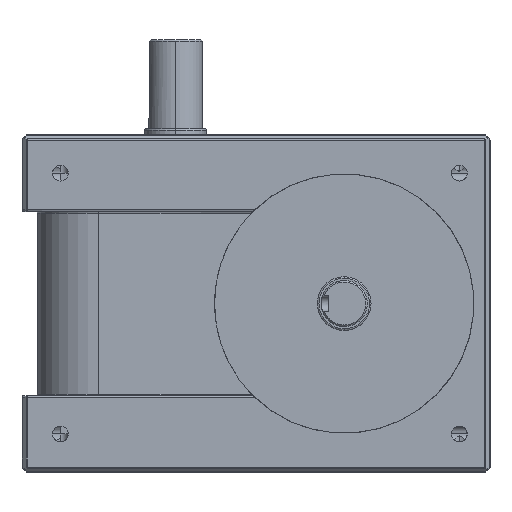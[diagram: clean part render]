
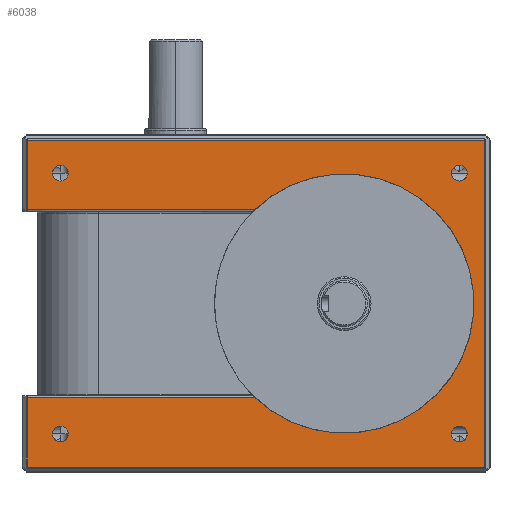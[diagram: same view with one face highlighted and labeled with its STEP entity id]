
A CAD part, left-side view. The second image highlights one B-rep face of the part: STEP entity #6038.
In plain terms, the highlighted planar face has unit normal (-1, 0, 0).
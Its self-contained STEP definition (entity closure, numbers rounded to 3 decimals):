
#1359=CARTESIAN_POINT('',(-100.,127.5,-195.));
#1360=DIRECTION('',(-1.,0.,0.));
#1361=DIRECTION('',(0.,0.,1.));
#1362=AXIS2_PLACEMENT_3D('',#1359,#1360,#1361);
#1364=CARTESIAN_POINT('',(-100.,127.5,-195.));
#1365=DIRECTION('',(-1.,0.,0.));
#1366=DIRECTION('',(0.,0.,-1.));
#1367=AXIS2_PLACEMENT_3D('',#1364,#1365,#1366);
#1369=CARTESIAN_POINT('',(-100.,127.5,-25.));
#1370=DIRECTION('',(-1.,0.,0.));
#1371=DIRECTION('',(0.,0.,1.));
#1372=AXIS2_PLACEMENT_3D('',#1369,#1370,#1371);
#1374=CARTESIAN_POINT('',(-100.,127.5,-25.));
#1375=DIRECTION('',(-1.,0.,0.));
#1376=DIRECTION('',(0.,0.,-1.));
#1377=AXIS2_PLACEMENT_3D('',#1374,#1375,#1376);
#1379=CARTESIAN_POINT('',(-100.,-132.5,-25.));
#1380=DIRECTION('',(-1.,0.,0.));
#1381=DIRECTION('',(0.,0.,1.));
#1382=AXIS2_PLACEMENT_3D('',#1379,#1380,#1381);
#1384=CARTESIAN_POINT('',(-100.,-132.5,-25.));
#1385=DIRECTION('',(-1.,0.,0.));
#1386=DIRECTION('',(0.,0.,-1.));
#1387=AXIS2_PLACEMENT_3D('',#1384,#1385,#1386);
#1389=CARTESIAN_POINT('',(-100.,-132.5,-195.));
#1390=DIRECTION('',(-1.,0.,0.));
#1391=DIRECTION('',(0.,0.,1.));
#1392=AXIS2_PLACEMENT_3D('',#1389,#1390,#1391);
#1394=CARTESIAN_POINT('',(-100.,-132.5,-195.));
#1395=DIRECTION('',(-1.,0.,0.));
#1396=DIRECTION('',(0.,0.,-1.));
#1397=AXIS2_PLACEMENT_3D('',#1394,#1395,#1396);
#1399=DIRECTION('',(0.,0.,-1.));
#1400=VECTOR('',#1399,45.586);
#1401=CARTESIAN_POINT('',(-100.,149.086,-171.));
#1402=LINE('',#1401,#1400);
#1403=DIRECTION('',(0.,1.,0.));
#1404=VECTOR('',#1403,148.111);
#1405=CARTESIAN_POINT('',(-100.,0.974,-171.));
#1406=LINE('',#1405,#1404);
#1407=DIRECTION('',(0.,-1.,0.));
#1408=VECTOR('',#1407,148.111);
#1409=CARTESIAN_POINT('',(-100.,149.086,-49.));
#1410=LINE('',#1409,#1408);
#1411=DIRECTION('',(0.,0.,-1.));
#1412=VECTOR('',#1411,45.586);
#1413=CARTESIAN_POINT('',(-100.,149.086,
-3.414));
#1414=LINE('',#1413,#1412);
#1415=DIRECTION('',(0.,1.,0.));
#1416=VECTOR('',#1415,298.172);
#1417=CARTESIAN_POINT('',(-100.,-149.086,
-3.414));
#1418=LINE('',#1417,#1416);
#1419=DIRECTION('',(0.,0.,1.));
#1420=VECTOR('',#1419,213.172);
#1421=CARTESIAN_POINT('',(-100.,-149.086,
-216.586));
#1422=LINE('',#1421,#1420);
#1423=DIRECTION('',(0.,-1.,0.));
#1424=VECTOR('',#1423,298.172);
#1425=CARTESIAN_POINT('',(-100.,149.086,
-216.586));
#1426=LINE('',#1425,#1424);
#1705=CARTESIAN_POINT('',(-100.,0.974,-171.));
#1712=CARTESIAN_POINT('',(-100.,0.974,-49.));
#1721=CARTESIAN_POINT('',(-100.,-57.5,-110.));
#1722=DIRECTION('',(1.,0.,0.));
#1723=DIRECTION('',(0.,0.692,0.722));
#1724=AXIS2_PLACEMENT_3D('',#1721,#1722,#1723);
#1734=CARTESIAN_POINT('',(-100.,149.086,-171.));
#3949=CARTESIAN_POINT('',(-100.,127.5,-189.85));
#3950=CARTESIAN_POINT('',(-100.,127.5,-200.15));
#3951=VERTEX_POINT('',#3949);
#3952=VERTEX_POINT('',#3950);
#3953=CARTESIAN_POINT('',(-100.,127.5,-19.85));
#3954=CARTESIAN_POINT('',(-100.,127.5,-30.15));
#3955=VERTEX_POINT('',#3953);
#3956=VERTEX_POINT('',#3954);
#3957=CARTESIAN_POINT('',(-100.,-132.5,-19.85));
#3958=CARTESIAN_POINT('',(-100.,-132.5,-30.15));
#3959=VERTEX_POINT('',#3957);
#3960=VERTEX_POINT('',#3958);
#3961=CARTESIAN_POINT('',(-100.,-132.5,-189.85));
#3962=CARTESIAN_POINT('',(-100.,-132.5,-200.15));
#3963=VERTEX_POINT('',#3961);
#3964=VERTEX_POINT('',#3962);
#4291=VERTEX_POINT('',#1705);
#4292=VERTEX_POINT('',#1712);
#4408=VERTEX_POINT('',#1734);
#4409=CARTESIAN_POINT('',(-100.,149.086,
-216.586));
#4410=VERTEX_POINT('',#4409);
#4414=CARTESIAN_POINT('',(-100.,-149.086,
-216.586));
#4415=VERTEX_POINT('',#4414);
#4419=CARTESIAN_POINT('',(-100.,-149.086,
-3.414));
#4420=VERTEX_POINT('',#4419);
#4424=CARTESIAN_POINT('',(-100.,149.086,
-3.414));
#4425=VERTEX_POINT('',#4424);
#4429=CARTESIAN_POINT('',(-100.,149.086,-49.));
#4430=VERTEX_POINT('',#4429);
#5997=CARTESIAN_POINT('',(-100.,152.5,0.));
#5998=DIRECTION('',(-1.,0.,0.));
#5999=DIRECTION('',(0.,-1.,0.));
#6000=AXIS2_PLACEMENT_3D('',#5997,#5998,#5999);
#6001=PLANE('',#6000);
#6003=ORIENTED_EDGE('',*,*,#6002,.F.);
#6005=ORIENTED_EDGE('',*,*,#6004,.F.);
#6007=ORIENTED_EDGE('',*,*,#6006,.F.);
#6009=ORIENTED_EDGE('',*,*,#6008,.F.);
#6011=ORIENTED_EDGE('',*,*,#6010,.F.);
#6013=ORIENTED_EDGE('',*,*,#6012,.F.);
#6015=ORIENTED_EDGE('',*,*,#6014,.F.);
#6017=ORIENTED_EDGE('',*,*,#6016,.F.);
#6018=EDGE_LOOP('',(#6003,#6005,#6007,#6009,#6011,#6013,#6015,#6017));
#6019=FACE_OUTER_BOUND('',#6018,.F.);
#6021=ORIENTED_EDGE('',*,*,#6020,.T.);
#6022=ORIENTED_EDGE('',*,*,#4949,.T.);
#6023=EDGE_LOOP('',(#6021,#6022));
#6024=FACE_BOUND('',#6023,.F.);
#6025=ORIENTED_EDGE('',*,*,#5551,.T.);
#6027=ORIENTED_EDGE('',*,*,#6026,.T.);
#6028=EDGE_LOOP('',(#6025,#6027));
#6029=FACE_BOUND('',#6028,.F.);
#6030=ORIENTED_EDGE('',*,*,#5927,.T.);
#6031=ORIENTED_EDGE('',*,*,#5988,.T.);
#6032=EDGE_LOOP('',(#6030,#6031));
#6033=FACE_BOUND('',#6032,.F.);
#6034=ORIENTED_EDGE('',*,*,#5037,.T.);
#6035=ORIENTED_EDGE('',*,*,#5015,.T.);
#6036=EDGE_LOOP('',(#6034,#6035));
#6037=FACE_BOUND('',#6036,.F.);
#1363=CIRCLE('',#1362,5.15);
#1368=CIRCLE('',#1367,5.15);
#1373=CIRCLE('',#1372,5.15);
#1378=CIRCLE('',#1377,5.15);
#1383=CIRCLE('',#1382,5.15);
#1388=CIRCLE('',#1387,5.15);
#1393=CIRCLE('',#1392,5.15);
#1398=CIRCLE('',#1397,5.15);
#1725=CIRCLE('',#1724,84.5);
#4949=EDGE_CURVE('',#3956,#3955,#1378,.T.);
#5015=EDGE_CURVE('',#3952,#3951,#1368,.T.);
#5037=EDGE_CURVE('',#3951,#3952,#1363,.T.);
#5551=EDGE_CURVE('',#3959,#3960,#1383,.T.);
#5927=EDGE_CURVE('',#3963,#3964,#1393,.T.);
#5988=EDGE_CURVE('',#3964,#3963,#1398,.T.);
#6002=EDGE_CURVE('',#4408,#4410,#1402,.T.);
#6004=EDGE_CURVE('',#4291,#4408,#1406,.T.);
#6006=EDGE_CURVE('',#4292,#4291,#1725,.T.);
#6008=EDGE_CURVE('',#4430,#4292,#1410,.T.);
#6010=EDGE_CURVE('',#4425,#4430,#1414,.T.);
#6012=EDGE_CURVE('',#4420,#4425,#1418,.T.);
#6014=EDGE_CURVE('',#4415,#4420,#1422,.T.);
#6016=EDGE_CURVE('',#4410,#4415,#1426,.T.);
#6020=EDGE_CURVE('',#3955,#3956,#1373,.T.);
#6026=EDGE_CURVE('',#3960,#3959,#1388,.T.);
#6038=ADVANCED_FACE('',(#6019,#6024,#6029,#6033,#6037),#6001,.T.);
